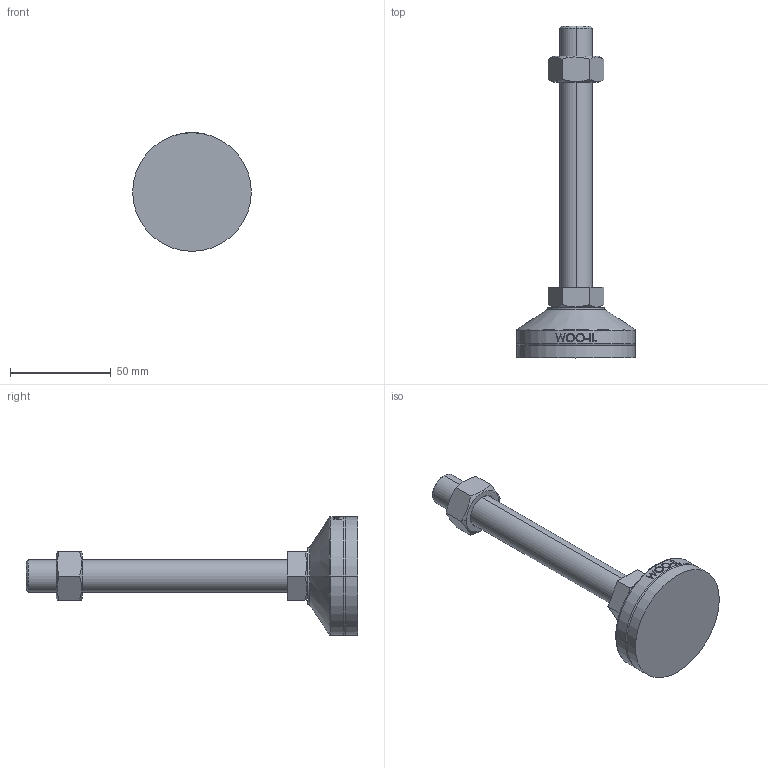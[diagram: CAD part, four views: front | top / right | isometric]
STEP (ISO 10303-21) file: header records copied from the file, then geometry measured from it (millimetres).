
FILE_DESCRIPTION (( 'STEP AP214' ), '1' );
FILE_NAME ('MFR59-M16-130.step', '2021-01-15T08:01:42', ( '' ), ( '' ), 'SwSTEP 2.0', 'SolidWorks 2019', '' );
FILE_SCHEMA (( 'AUTOMOTIVE_DESIGN' ));
Length unit declared in the file: millimetre
Products named in the file (2): MFR59-M16-130
Bounding box: 59 x 165 x 59 mm (x, y, z)
Volume: 89470.7 mm3; surface area: 24452.3 mm2
Topology: 4 solids, 4 shells, 103 faces, 235 edges, 150 vertices
Faces by surface type: plane 49, cylinder 18, bspline 16, cone 14, torus 6
Entity records: 4363 total; most frequent: CARTESIAN_POINT 2090, ORIENTED_EDGE 470, DIRECTION 417, EDGE_CURVE 235, AXIS2_PLACEMENT_3D 159, VERTEX_POINT 150, EDGE_LOOP 115, ADVANCED_FACE 103
